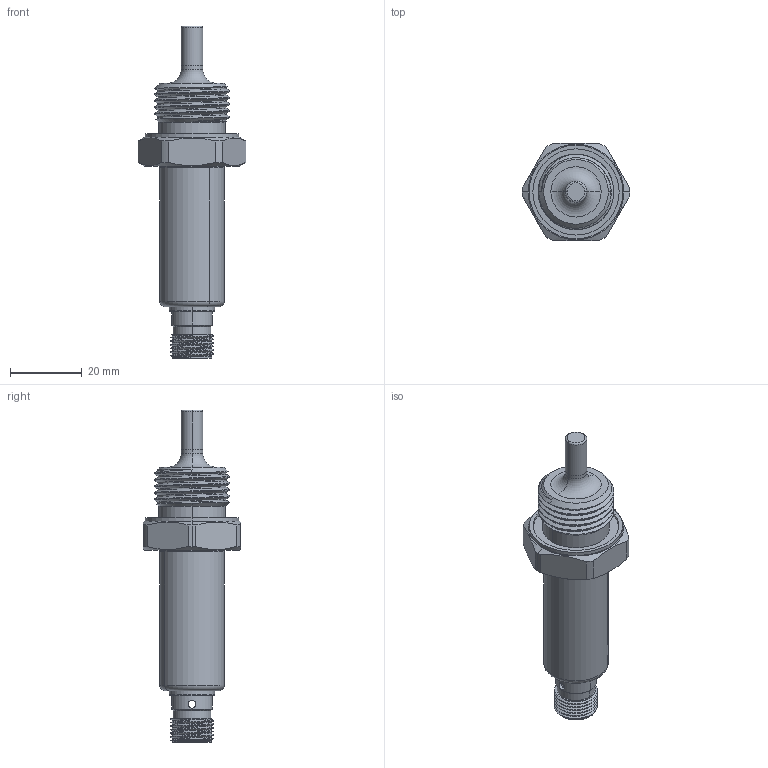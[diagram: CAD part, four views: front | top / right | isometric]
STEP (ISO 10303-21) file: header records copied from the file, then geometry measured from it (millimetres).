
FILE_DESCRIPTION (( 'STEP AP203' ), '1' );
FILE_NAME ('4分外牙TA温度L30装配体.STEP', '2026-03-03T08:07:07', ( '' ), ( '' ), 'SwSTEP 2.0', 'SolidWorks 2022', '' );
FILE_SCHEMA (( 'CONFIG_CONTROL_DESIGN' ));
Length unit declared in the file: millimetre
Products named in the file (5): 褲极; 瑤脣釱褲; 4分外牙TA温度L30装配体; G4煦假蚾諉芛; 抻芛奪酗僅11
Assembly tree (4 placements, depth 2):
  4分外牙TA温度L30装配体
    G4煦假蚾諉芛
    瑤脣釱褲
    褲极
    抻芛奪酗僅11
Bounding box: 30 x 27 x 92.4 mm (x, y, z)
Volume: 9830.3 mm3; surface area: 10406 mm2
Topology: 4 solids, 4 shells, 144 faces, 335 edges, 214 vertices
Faces by surface type: cylinder 77, plane 32, cone 15, torus 14, bspline 6
Entity records: 8704 total; most frequent: CARTESIAN_POINT 4988, DIRECTION 679, ORIENTED_EDGE 670, EDGE_CURVE 335, AXIS2_PLACEMENT_3D 289, VERTEX_POINT 214, EDGE_LOOP 169, CIRCLE 144
